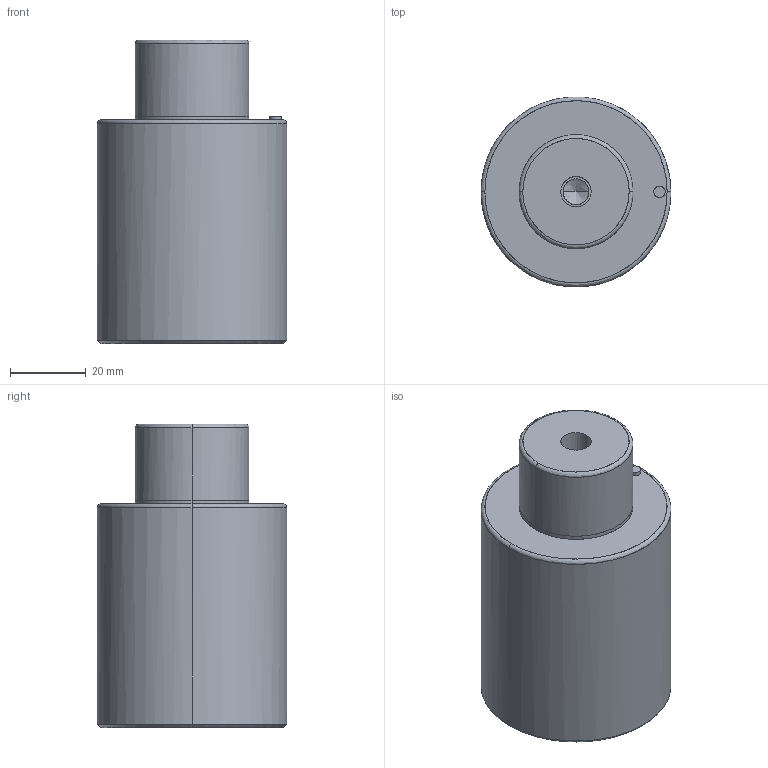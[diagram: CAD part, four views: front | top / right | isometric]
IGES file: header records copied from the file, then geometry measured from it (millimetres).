
Global section: file name: E:\UnigraphicsGraphicData\MISUMI_PRESS-PARTS\IGES\3d_gsc50-20_03833_r00.igs; native system: NX V5.0; preprocessor: UGS NX IGES V5.0; author: MISUMI; date: 20110105.160748; units: millimetre
Bounding box: 50 x 49.91 x 80 mm (x, y, z)
Surface area: 15866.9 mm2 (no closed solid volume)
Topology: 0 solids, 0 shells, 32 faces, 232 edges, 228 vertices
Faces by surface type: bspline 32
